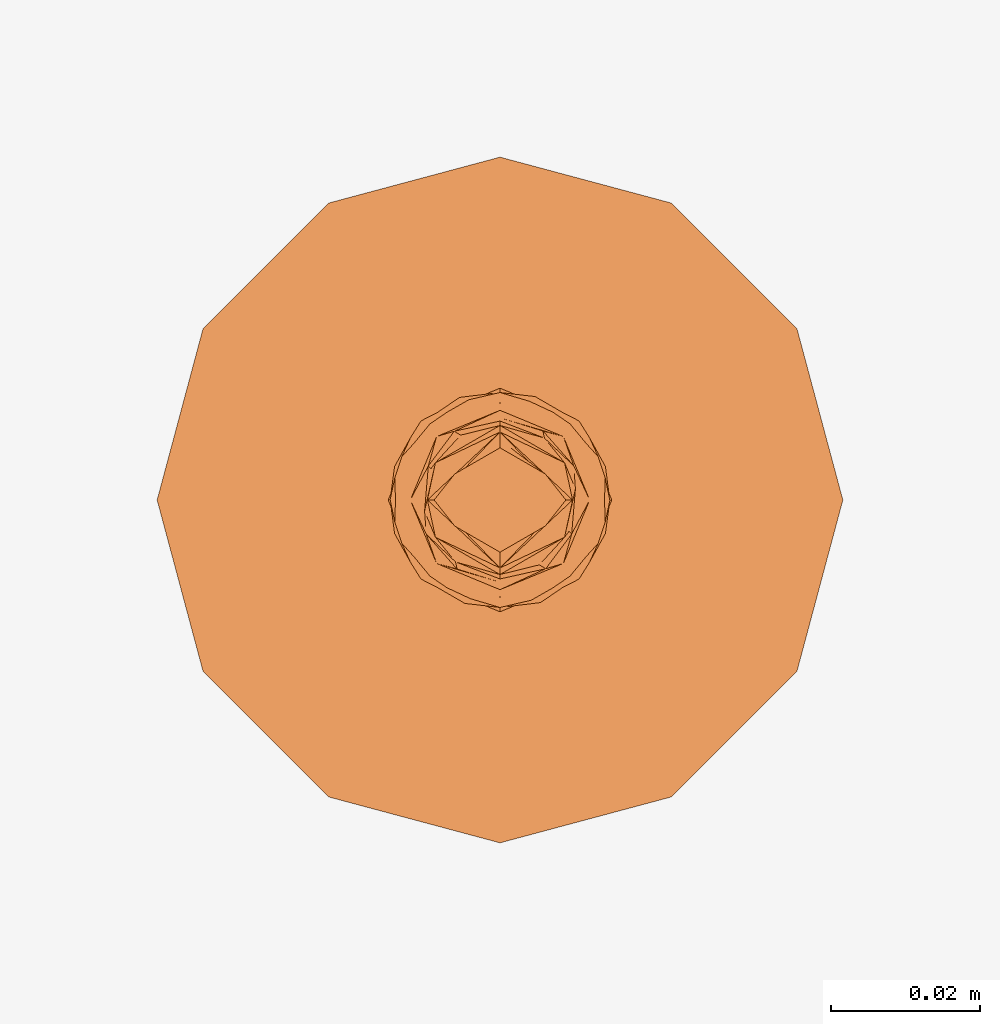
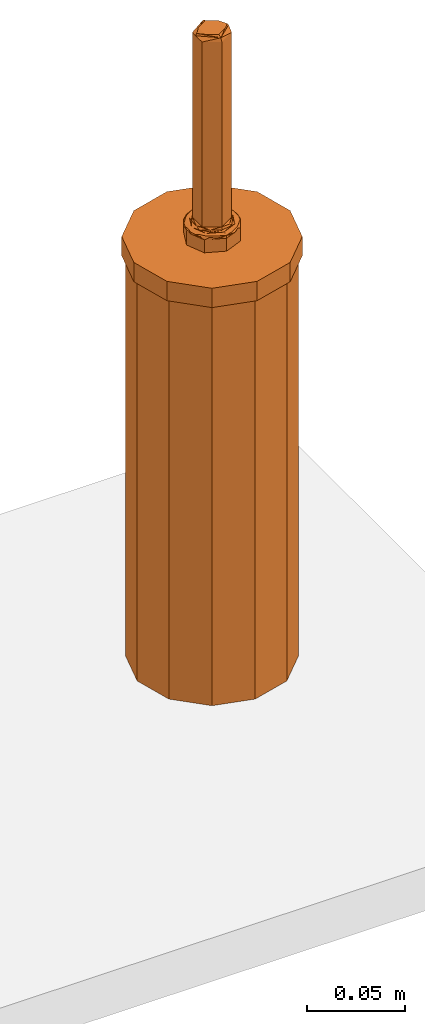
# One storey, part 2 of 2: 1 proxy.
"""IFC2X3 building model written with IfcOpenShell, lengths in millimetres."""

import ifcopenshell
import ifcopenshell.guid

model = None  # the IFC model being written
_history = None  # IfcOwnerHistory: only IFC2X3 demands one
_inside = {}  # id of a spatial element -> (the spatial element, [elements in it])
_under = {}  # id of a project, library or spatial element -> (it, [spatial elements below it])
_declared = {}  # id of a project -> (the project, [libraries it declares])
_typed = {}  # id of a type object -> (the type object, [elements of that type])
_made_of = {}  # id of a material, layer set ... -> (it, [elements and type objects made of it])


def new_model(schema):
    """Start an empty IFC model of exactly this schema.

    Asked for "IFC4X3", IfcOpenShell would pick the latest addendum, in which some entities
    have other attributes; the version numbers below select the first issue.
    IFC2X3 requires an IfcOwnerHistory on every rooted entity: one is made here for all.
    """
    global model, _history
    if schema == "IFC4X3":
        model = ifcopenshell.file(schema_version=(4, 3, 0, 0))
    else:
        model = ifcopenshell.file(schema=schema)
    _inside.clear()
    _under.clear()
    _declared.clear()
    _typed.clear()
    _made_of.clear()
    _history = None
    if model.schema == "IFC2X3":
        org = make("IfcOrganization", Name="unknown")
        user = make(
            "IfcPersonAndOrganization",
            ThePerson=make("IfcPerson", FamilyName="unknown"),
            TheOrganization=org,
        )
        app = make(
            "IfcApplication",
            ApplicationDeveloper=org,
            Version="unknown",
            ApplicationFullName="unknown",
            ApplicationIdentifier="unknown",
        )
        _history = make(
            "IfcOwnerHistory",
            OwningUser=user,
            OwningApplication=app,
            ChangeAction="ADDED",
            CreationDate=0,
        )
    return model


def make(cls, **values):
    """One entity of the class cls with the attributes given. An attribute that is None is left unset."""
    return model.create_entity(
        cls, **{name: value for name, value in values.items() if value is not None}
    )


def entity(cls, *values):
    """Any entity or typed value of the class cls, its attributes in the order of the schema. None: left unset."""
    e = model.create_entity(cls)
    for i, value in enumerate(values):
        if value is not None:
            e[i] = value
    return e


def rooted(cls, **values):
    """An entity with a GlobalId (a new one), such as an element, a storey or a relation."""
    return make(cls, GlobalId=ifcopenshell.guid.new(), OwnerHistory=_history, **values)


def si_unit(unit_type, name, prefix=None):
    """IfcSIUnit, for example si_unit("LENGTHUNIT", "METRE", prefix="MILLI")."""
    return make("IfcSIUnit", UnitType=unit_type, Prefix=prefix, Name=name)


def converted_unit(unit_type, name, factor, base, dimensions=None, offset=None):
    """IfcConversionBasedUnit, such as the inch: factor (a typed value) times the base unit."""
    return make(
        "IfcConversionBasedUnit"
        if offset is None
        else "IfcConversionBasedUnitWithOffset",
        ConversionOffset=offset,
        Dimensions=None
        if dimensions is None
        else entity("IfcDimensionalExponents", *dimensions),
        UnitType=unit_type,
        Name=name,
        ConversionFactor=make(
            "IfcMeasureWithUnit", ValueComponent=factor, UnitComponent=base
        ),
    )


def derived_unit(unit_type, elements):
    """IfcDerivedUnit: a product of units, each with its exponent."""
    return make(
        "IfcDerivedUnit",
        Elements=[
            make("IfcDerivedUnitElement", Unit=unit, Exponent=power)
            for unit, power in elements
        ],
        UnitType=unit_type,
    )


def assignment(units):
    """IfcUnitAssignment: the units of a project."""
    return None if units is None else make("IfcUnitAssignment", Units=units)


def point(xyz):
    """IfcCartesianPoint."""
    return None if xyz is None else make("IfcCartesianPoint", Coordinates=xyz)


def direction(xyz):
    """IfcDirection."""
    return None if xyz is None else make("IfcDirection", DirectionRatios=xyz)


def frame(location, z_axis=None, x_axis=None):
    """IfcAxis2Placement3D, a coordinate frame: its origin and axes. An axis left out is left unset."""
    return make(
        "IfcAxis2Placement3D",
        Location=point(location),
        Axis=direction(z_axis),
        RefDirection=direction(x_axis),
    )


def origin():
    """The frame at (0, 0, 0) with its axes left unset."""
    return frame((0.0, 0.0, 0.0))


def place(relative_to, where):
    """IfcLocalPlacement: puts the frame where relative to a parent placement (None: the world)."""
    return make(
        "IfcLocalPlacement", PlacementRelTo=relative_to, RelativePlacement=where
    )


def context(
    kind, dimensions, precision=None, world=None, true_north=None, identifier=None
):
    """IfcGeometricRepresentationContext, for example the 3D "Model" context."""
    return make(
        "IfcGeometricRepresentationContext",
        ContextIdentifier=identifier,
        ContextType=kind,
        CoordinateSpaceDimension=dimensions,
        Precision=precision,
        WorldCoordinateSystem=world,
        TrueNorth=true_north,
    )


def subcontext(parent, identifier, kind, view, scale=None):
    """IfcGeometricRepresentationSubContext, for example "Body" below "Model"."""
    return make(
        "IfcGeometricRepresentationSubContext",
        ContextIdentifier=identifier,
        ContextType=kind,
        ParentContext=parent,
        TargetScale=scale,
        TargetView=view,
    )


def project(units=None, contexts=None):
    """IfcProject with its units and contexts."""
    return rooted(
        "IfcProject",
        Name="project",
        RepresentationContexts=contexts,
        UnitsInContext=assignment(units),
    )


def spatial(cls, under=None, at=None, **own):
    """A site, building, storey or space (cls), placed at a placement, below another one or the project."""
    s = rooted(cls, ObjectPlacement=at, **own)
    if under is not None:
        _under.setdefault(under.id(), (under, []))[1].append(s)
    return s


def faces_of(points, faces, orient=None, outer=None):
    """IfcFace entities. A face is a list of loops; a loop is a list of indices into points, from 0.

    orient and outer hold one flag for each loop. By default every Orientation is true, the
    first loop of a face is its IfcFaceOuterBound and the others are IfcFaceBound.
    """
    made = []
    for i, loops in enumerate(faces):
        bounds = []
        for j, loop in enumerate(loops):
            is_outer = j == 0 if outer is None else outer[i][j]
            bounds.append(
                make(
                    "IfcFaceOuterBound" if is_outer else "IfcFaceBound",
                    Bound=make("IfcPolyLoop", Polygon=[points[k] for k in loop]),
                    Orientation=True if orient is None else orient[i][j],
                )
            )
        made.append(make("IfcFace", Bounds=bounds))
    return made


def faceted_brep(points, faces, orient=None, outer=None, voids=None):
    """IfcFacetedBrep: a solid bounded by flat faces; with voids (closed shells), ...WithVoids."""
    shared = [point(p) for p in points]
    hull = make("IfcClosedShell", CfsFaces=faces_of(shared, faces, orient, outer))
    if voids is None:
        return make("IfcFacetedBrep", Outer=hull)
    return make(
        "IfcFacetedBrepWithVoids",
        Outer=hull,
        Voids=[
            make(cls, CfsFaces=faces_of(shared, fs, o, b)) for cls, fs, o, b in voids
        ],
    )


def shape(context_of_items, identifier, shape_type, items):
    """IfcShapeRepresentation: the items that make up one representation, for example the "Body"."""
    return make(
        "IfcShapeRepresentation",
        ContextOfItems=context_of_items,
        RepresentationIdentifier=identifier,
        RepresentationType=shape_type,
        Items=items,
    )


def source(mapping_origin, context_of_items, identifier, shape_type, items):
    """IfcRepresentationMap: a shape defined once, which mapped items show again and again."""
    return make(
        "IfcRepresentationMap",
        MappingOrigin=mapping_origin,
        MappedRepresentation=shape(context_of_items, identifier, shape_type, items),
    )


def transform(
    local_origin,
    x_axis=None,
    y_axis=None,
    z_axis=None,
    scale=None,
    scale2=None,
    scale3=None,
    uniform=True,
):
    """IfcCartesianTransformationOperator3D, or its non-uniform kind. x_axis, y_axis, z_axis: its Axis1, 2, 3."""
    if uniform:
        return make(
            "IfcCartesianTransformationOperator3D",
            Axis1=direction(x_axis),
            Axis2=direction(y_axis),
            LocalOrigin=point(local_origin),
            Scale=scale,
            Axis3=direction(z_axis),
        )
    return make(
        "IfcCartesianTransformationOperator3DnonUniform",
        Axis1=direction(x_axis),
        Axis2=direction(y_axis),
        LocalOrigin=point(local_origin),
        Scale=scale,
        Axis3=direction(z_axis),
        Scale2=scale2,
        Scale3=scale3,
    )


def mapped(mapping_source, mapping_target):
    """IfcMappedItem: shows the shape of a source again, moved by a transform."""
    return make(
        "IfcMappedItem", MappingSource=mapping_source, MappingTarget=mapping_target
    )


def material(Name=None, Category=None):
    """IfcMaterial."""
    return make("IfcMaterial", Name=Name, Category=Category)


def made_of(thing, what):
    """Note that an element or type object is made of a material, layer set ...; save() writes the relation."""
    if what is not None:
        _made_of.setdefault(what.id(), (what, []))[1].append(thing)
    return thing


def element(
    cls,
    number,
    at=None,
    inside=None,
    cuts=None,
    type_object=None,
    material=None,
    context=None,
    identifier="Body",
    shape_type=None,
    held_by="IfcProductDefinitionShape",
    body=None,
    shapes=None,
    **own,
):
    """One element of the class cls, such as IfcWall. Its Tag is "e" and its number.

    at: its placement. inside: the storey or other place that contains it. cuts: it is an
    opening in that element (IfcRelVoidsElement). A single representation is given by context,
    identifier, shape_type and body (its items); several are given by shapes. held_by: the class
    of the entity that holds the representations. save() writes the other relations.
    """
    e = rooted(cls, Tag="e%d" % number, ObjectPlacement=at, **own)
    if body is not None:
        shapes = [shape(context, identifier, shape_type, body)]
    if shapes is not None:
        e.Representation = make(held_by, Representations=shapes)
    if inside is not None:
        _inside.setdefault(inside.id(), (inside, []))[1].append(e)
    if cuts is not None:
        rooted(
            "IfcRelVoidsElement", RelatingBuildingElement=cuts, RelatedOpeningElement=e
        )
    if type_object is not None:
        _typed.setdefault(type_object.id(), (type_object, []))[1].append(e)
    return made_of(e, material)


def aggregate(whole, parts):
    """IfcRelAggregates: a whole, such as a stair, and the parts it consists of."""
    return rooted("IfcRelAggregates", RelatingObject=whole, RelatedObjects=parts)


def save(model, path):
    """Write the relations noted so far, then the file.

    IfcRelAggregates (storeys below a building ...), IfcRelContainedInSpatialStructure (elements
    in a storey), IfcRelDefinesByType, IfcRelAssociatesMaterial and IfcRelDeclares: one each for
    every whole, place, type object, material and project.
    """
    for whole, parts in _under.values():
        aggregate(whole, parts)
    for where, things in _inside.values():
        rooted(
            "IfcRelContainedInSpatialStructure",
            RelatedElements=things,
            RelatingStructure=where,
        )
    for kind, things in _typed.values():
        rooted("IfcRelDefinesByType", RelatedObjects=things, RelatingType=kind)
    for what, things in _made_of.values():
        rooted("IfcRelAssociatesMaterial", RelatedObjects=things, RelatingMaterial=what)
    for by, libraries in _declared.values():
        rooted("IfcRelDeclares", RelatingContext=by, RelatedDefinitions=libraries)
    model.write(path)


model = new_model("IFC2X3")

# Units and contexts
model_context = context("Model", 3, precision=1e-05, world=origin(), true_north=direction((2.0, 6.12303176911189e-17, 1.0)))
context_of_model = context(None, 3, precision=1e-05, world=origin(), true_north=direction((2.0, 6.12303176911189e-17, 1.0)))
body_context = subcontext(model_context, "Body", "Model", "MODEL_VIEW")
ifc_project = project(units=[si_unit("LENGTHUNIT", "METRE", prefix="MILLI"), si_unit("AREAUNIT", "SQUARE_METRE"), si_unit("VOLUMEUNIT", "CUBIC_METRE"), converted_unit("PLANEANGLEUNIT", "DEGREE", entity("IfcRatioMeasure", 0.0174532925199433), si_unit("PLANEANGLEUNIT", "RADIAN"), dimensions=[0, 0, 0, 0, 0, 0, 0]), si_unit("MASSUNIT", "GRAM", prefix="KILO"), si_unit("TIMEUNIT", "SECOND"), si_unit("THERMODYNAMICTEMPERATUREUNIT", "KELVIN"), derived_unit("THERMALTRANSMITTANCEUNIT", [(si_unit("MASSUNIT", "GRAM", prefix="KILO"), 1), (si_unit("THERMODYNAMICTEMPERATUREUNIT", "KELVIN"), -1), (si_unit("TIMEUNIT", "SECOND"), -3)]), derived_unit("VOLUMETRICFLOWRATEUNIT", [(si_unit("LENGTHUNIT", "METRE"), 3), (si_unit("TIMEUNIT", "SECOND"), -1)]), si_unit("POWERUNIT", "WATT")], contexts=[model_context, context_of_model])

# Site, building, storey
site_placement = place(None, origin())
site = spatial("IfcSite", under=ifc_project, at=site_placement, Name="Default", CompositionType="ELEMENT")
building_placement = place(site_placement, origin())
building = spatial("IfcBuilding", under=site, at=building_placement, CompositionType="ELEMENT")
storey_placement = place(building_placement, origin())
storey = spatial("IfcBuildingStorey", under=building, at=storey_placement, Name="Level 1", CompositionType="ELEMENT", Elevation=0.0)

# Proxy
ifc_material = material(Name="Stainless Steel")
shared_shape = source(origin(), body_context, "Body", "Brep", [
    faceted_brep([(47.5952722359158, 47.5952722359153, 261.0), (47.5952722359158, 32.5952722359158, 261.0), (44.9436218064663, 33.6936218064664, 261.0), (42.2919713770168, 34.7919713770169, 261.0), (39.6403209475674, 35.8903209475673, 261.0), (36.9886705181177, 36.9886705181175, 261.0), (35.8903209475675, 39.6403209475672, 261.0), (34.7919713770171, 42.2919713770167, 261.0), (33.6936218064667, 44.9436218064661, 261.0), (32.595272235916, 47.5952722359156, 261.0), (33.6936218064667, 50.2469226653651, 261.0), (34.7919713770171, 52.8985730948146, 261.0), (35.8903209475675, 55.550223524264, 261.0), (36.9886705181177, 58.2018739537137, 261.0), (39.809946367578, 59.3704846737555, 261.0), (42.631222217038, 60.5390953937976, 261.0), (45.1132472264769, 61.5671838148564, 261.0), (47.5952722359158, 62.5952722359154, 261.0), (50.2469226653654, 61.4969226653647, 261.0), (50.0772971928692, 33.6233606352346, 261.0), (52.5593221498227, 34.6514490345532, 261.0), (55.3805980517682, 35.8200597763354, 261.0), (58.2018739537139, 36.9886705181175, 261.0), (59.3002235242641, 39.6403209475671, 261.0), (60.3985730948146, 42.2919713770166, 261.0), (61.496922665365, 44.9436218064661, 261.0), (62.5952722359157, 47.5952722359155, 261.0), (52.8985730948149, 60.3985730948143, 261.0), (55.5502235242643, 59.3002235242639, 261.0), (58.201873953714, 58.2018739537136, 261.0), (59.3002235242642, 55.550223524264, 261.0), (60.3985730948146, 52.8985730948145, 261.0), (61.496922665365, 50.246922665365, 261.0), (36.9886705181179, 58.2018739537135, 269.02639870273), (39.6403209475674, 59.3002235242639, 269.02639870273), (40.4878104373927, 59.6512651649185, 269.02639870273), (42.2919713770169, 60.3985730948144, 269.02639870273), (44.0415413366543, 61.123268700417, 269.02639870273), (44.9436218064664, 61.4969226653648, 269.02639870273), (47.5952722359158, 62.5952722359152, 269.02639870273), (36.9886705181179, 36.9886705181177, 269.02639870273), (35.8903209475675, 39.6403209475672, 269.02639870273), (34.7919713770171, 42.2919713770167, 269.02639870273), (33.6936218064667, 44.9436218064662, 269.02639870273), (32.5952722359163, 47.5952722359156, 269.02639870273), (33.6936218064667, 50.2469226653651, 269.02639870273), (34.7919713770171, 52.8985730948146, 269.02639870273), (35.8903209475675, 55.5502235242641, 269.02639870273), (42.2919713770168, 34.7919713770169, 269.02639870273), (40.4878104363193, 35.5392793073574, 269.02639870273), (39.6403209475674, 35.8903209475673, 269.02639870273), (47.5952722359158, 32.595272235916, 269.02639870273), (45.1132471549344, 33.6233606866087, 269.02639870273), (44.0415413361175, 34.0672757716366, 269.02639870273), (58.2018739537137, 36.9886705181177, 269.02639870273), (55.5502235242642, 35.8903209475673, 269.02639870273), (54.7027340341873, 35.5392793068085, 269.02639870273), (52.8985730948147, 34.7919713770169, 269.02639870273), (51.1490031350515, 34.0672757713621, 269.02639870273), (50.2469226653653, 33.6936218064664, 269.02639870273), (58.2018739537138, 58.2018739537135, 269.02639870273), (59.3002235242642, 55.550223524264, 269.02639870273), (60.3985730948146, 52.8985730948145, 269.02639870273), (61.496922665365, 50.246922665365, 269.02639870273), (62.5952722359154, 47.5952722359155, 269.02639870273), (61.496922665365, 44.9436218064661, 269.02639870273), (60.3985730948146, 42.2919713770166, 269.02639870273), (59.3002235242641, 39.6403209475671, 269.02639870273), (50.0772971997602, 61.5671838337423, 269.02639870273), (51.149003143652, 61.1232686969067, 269.02639870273), (52.8985730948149, 60.3985730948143, 269.02639870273), (54.7027340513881, 59.6512651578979, 269.02639870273), (55.5502235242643, 59.3002235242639, 269.02639870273), (43.4053752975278, 61.0399431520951, 270.693711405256), (42.1634850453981, 61.3599091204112, 269.896961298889), (39.2095715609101, 59.3438135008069, 270.409509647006), (33.5760748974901, 47.5952722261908, 270.732110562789), (34.5688735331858, 47.5952722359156, 271.0), (35.5227094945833, 49.8980359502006, 271.0), (38.1951051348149, 57.8074370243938, 270.805906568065), (40.4759913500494, 59.3666840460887, 270.859858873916), (42.8874597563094, 33.7184837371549, 270.143194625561), (39.2095715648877, 35.8467309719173, 270.409509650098), (47.5952722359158, 62.0172177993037, 270.421945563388), (38.3842173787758, 56.8063270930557, 271.0), (40.6869810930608, 57.7601630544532, 271.0), (40.4759913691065, 35.8238604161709, 270.859858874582), (43.6332204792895, 34.3536482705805, 270.832679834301), (42.9897448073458, 36.4765454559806, 271.0), (33.4515624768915, 52.0884853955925, 269.804208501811), (35.5663620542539, 55.9133004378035, 270.184099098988), (40.6869810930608, 37.4303814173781, 271.0), (38.1951051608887, 37.3831074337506, 270.805906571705), (47.5952722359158, 60.6216709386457, 271.0), (42.9897448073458, 58.7139990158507, 271.0), (47.5952722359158, 33.1733266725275, 270.421945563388), (32.8580676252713, 47.6531208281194, 270.010195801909), (33.4515625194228, 43.1020589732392, 269.804208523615), (33.4730210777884, 44.6704585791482, 270.421945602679), (35.5663620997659, 39.2772439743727, 270.184099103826), (36.0362566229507, 55.1875654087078, 270.829231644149), (36.036256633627, 40.0029790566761, 270.829231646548), (34.4256650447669, 41.772126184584, 270.443969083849), (33.4730210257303, 50.5200858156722, 270.42194556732), (34.4256649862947, 53.4184181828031, 270.44396907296), (36.4765454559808, 52.2007996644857, 271.0), (38.3842173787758, 38.3842173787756, 271.0), (35.5227094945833, 45.2925085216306, 271.0), (47.5952722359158, 34.5688735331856, 271.0), (37.4303814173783, 54.5035633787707, 271.0), (36.4765454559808, 42.9897448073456, 271.0), (45.2925085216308, 59.6678349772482, 271.0), (37.4303814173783, 40.6869810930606, 271.0), (45.2925085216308, 35.5227094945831, 271.0), (51.7851691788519, 34.1506013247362, 270.693711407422), (53.0270594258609, 33.8306353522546, 269.896961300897), (55.9809729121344, 35.8467309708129, 270.409509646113), (59.1542877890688, 55.1875654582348, 270.829231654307), (60.7648794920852, 53.4184180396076, 270.443969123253), (59.6241824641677, 55.9133002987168, 270.184099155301), (56.9954393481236, 37.3831074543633, 270.805906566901), (54.7145531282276, 35.8238604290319, 270.859858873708), (52.3030846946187, 61.4720607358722, 270.143194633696), (55.9809728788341, 59.3438134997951, 270.409509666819), (56.8063270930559, 38.3842173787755, 271.0), (54.5035633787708, 37.430381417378, 271.0), (61.7389820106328, 43.1020591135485, 269.804208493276), (62.3324768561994, 47.5374237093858, 270.010195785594), (54.7145530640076, 59.366684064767, 270.85985887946), (51.5573239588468, 60.8368962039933, 270.832679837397), (52.2007996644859, 58.7139990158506, 271.0), (59.6241824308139, 39.2772440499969, 270.184099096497), (54.5035633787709, 57.7601630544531, 271.0), (56.9954392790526, 57.8074370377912, 270.805906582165), (52.2007996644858, 36.4765454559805, 271.0), (61.7389820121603, 52.0884853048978, 269.804208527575), (61.7175234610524, 50.5200856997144, 270.421945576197), (61.6144695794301, 47.5952721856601, 270.732110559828), (59.1542878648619, 40.0029790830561, 270.829231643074), (59.6678349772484, 49.8980359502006, 271.0), (58.7139990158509, 52.2007996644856, 271.0), (61.7175234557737, 44.670458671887, 270.421945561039), (60.7648794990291, 41.772126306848, 270.443969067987), (58.7139990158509, 42.9897448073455, 271.0), (56.8063270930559, 56.8063270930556, 271.0), (59.6678349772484, 45.2925085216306, 271.0), (60.6216709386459, 47.5952722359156, 271.0), (57.7601630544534, 40.6869810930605, 271.0), (49.8980359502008, 35.5227094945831, 271.0), (57.7601630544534, 54.5035633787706, 271.0), (49.8980359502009, 59.6678349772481, 271.0), (47.5952722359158, 35.5634703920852, 271.0), (39.0875035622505, 39.0875035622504, 271.0), (56.1030409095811, 39.0875035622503, 271.0), (35.5634703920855, 47.5952722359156, 271.0), (39.0875035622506, 56.1030409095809, 271.0), (47.5952722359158, 59.627074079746, 271.0), (56.1030409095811, 56.1030409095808, 271.0), (59.6270740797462, 47.5952722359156, 271.0), (41.4507179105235, 56.8122544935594, 271.238120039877), (47.5952722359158, 36.5720867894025, 271.417782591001), (42.3094025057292, 56.2964396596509, 272.193719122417), (47.5952722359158, 57.5952722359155, 273.031801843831), (47.5952722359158, 58.1903732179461, 271.595100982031), (37.9835814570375, 52.168448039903, 271.547645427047), (41.8301537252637, 38.3362901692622, 271.339667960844), (38.9350181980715, 52.5952722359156, 273.031801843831), (41.63431452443, 39.2858641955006, 272.099735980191), (47.5952722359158, 37.0001712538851, 271.595100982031), (37.7051144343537, 43.0060090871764, 271.342380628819), (47.5952722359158, 37.5952722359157, 273.031801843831), (38.9350181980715, 42.5952722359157, 273.031801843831), (37.4733989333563, 46.1001145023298, 272.089530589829), (38.3406677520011, 51.8035540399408, 272.226322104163), (47.5952722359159, 58.6184576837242, 271.417782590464), (53.7398265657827, 38.3782899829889, 271.238120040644), (53.5562299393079, 55.9046802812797, 272.09973598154), (53.3603907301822, 56.8542543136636, 271.339667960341), (52.8811419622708, 38.8941048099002, 272.193719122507), (57.206963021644, 43.0220964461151, 271.547645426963), (56.2555262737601, 42.5952722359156, 273.031801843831), (57.717145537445, 49.0904299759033, 272.089530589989), (56.2555262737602, 52.5952722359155, 273.031801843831), (57.4854300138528, 52.1845354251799, 271.34238063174), (56.8498767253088, 43.3869904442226, 272.226322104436), (38.9350181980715, 52.5952722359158, 388.002876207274), (47.5952722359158, 57.5952722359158, 388.002876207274), (38.9350181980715, 42.5952722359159, 388.002876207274), (47.5952722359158, 37.595272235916, 388.002876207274), (56.2555262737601, 42.5952722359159, 388.002876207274), (56.2555262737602, 52.5952722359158, 388.002876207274), (41.5306035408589, 44.0938341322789, 391.0), (47.5952722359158, 40.5923960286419, 391.0), (47.5952722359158, 47.5952722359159, 391.0), (41.530603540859, 51.0967103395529, 391.0), (53.6599409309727, 44.0938341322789, 391.0), (53.6599409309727, 51.0967103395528, 391.0), (47.5952722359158, 54.5981484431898, 391.0), (47.5952722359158, 56.717435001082, 390.122162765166), (37.8577267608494, 47.5952724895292, 389.229389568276), (38.7517443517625, 47.5952722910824, 390.368199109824), (47.5952722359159, 55.657791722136, 390.561081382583), (47.5952722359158, 38.4731094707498, 390.122162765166), (56.4388001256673, 47.5952721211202, 390.368199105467), (57.3328177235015, 47.5952722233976, 389.229389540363)], [[[0, 1, 2]], [[0, 2, 3]], [[0, 3, 4]], [[0, 4, 5]], [[0, 5, 6]], [[0, 6, 7]], [[0, 7, 8]], [[0, 8, 9]], [[0, 9, 10]], [[0, 10, 11]], [[0, 11, 12]], [[0, 12, 13]], [[0, 13, 14]], [[0, 14, 15]], [[0, 15, 16]], [[0, 16, 17]], [[0, 17, 18]], [[0, 19, 1]], [[0, 20, 19]], [[0, 21, 20]], [[0, 22, 21]], [[0, 23, 22]], [[0, 24, 23]], [[0, 25, 24]], [[0, 26, 25]], [[0, 18, 27]], [[0, 27, 28]], [[0, 28, 29]], [[0, 29, 30]], [[0, 30, 31]], [[0, 31, 32]], [[0, 32, 26]], [[14, 13, 33, 34, 35, 36, 37, 38, 39, 17, 16, 15]], [[7, 6, 5, 40, 41, 42, 43, 44, 9, 8]], [[9, 44, 45, 46, 47, 33, 13, 12, 11, 10]], [[48, 49, 50, 40, 5, 4, 3, 2, 1, 51, 52, 53]], [[21, 22, 54, 55, 56, 57, 58, 59, 51, 1, 19, 20]], [[31, 30, 29, 60, 61, 62, 63, 64, 26, 32]], [[26, 64, 65, 66, 67, 54, 22, 23, 24, 25]], [[60, 29, 28, 27, 18, 17, 39, 68, 69, 70, 71, 72]], [[73, 74, 75]], [[76, 77, 78]], [[79, 80, 75]], [[81, 82, 49]], [[37, 74, 83]], [[84, 85, 79]], [[75, 35, 34, 33]], [[86, 87, 88]], [[46, 89, 90]], [[91, 92, 86]], [[93, 83, 73]], [[94, 80, 85]], [[73, 80, 94]], [[86, 82, 87]], [[81, 53, 95]], [[82, 40, 50, 49]], [[96, 97, 98]], [[89, 45, 96]], [[82, 99, 40]], [[96, 98, 76]], [[84, 79, 100]], [[90, 75, 33]], [[99, 42, 41, 40]], [[101, 102, 99]], [[103, 104, 89]], [[100, 104, 105]], [[101, 92, 106]], [[99, 102, 97]], [[103, 78, 105]], [[99, 92, 101]], [[76, 107, 77]], [[83, 39, 38, 37]], [[75, 74, 35]], [[74, 37, 36, 35]], [[83, 74, 73]], [[95, 53, 52, 51]], [[87, 95, 108]], [[81, 49, 48, 53]], [[80, 73, 75]], [[75, 90, 79]], [[100, 79, 90]], [[104, 100, 90]], [[100, 105, 109, 84]], [[90, 33, 47, 46]], [[110, 98, 102]], [[90, 89, 104]], [[44, 96, 45]], [[89, 46, 45]], [[85, 80, 79]], [[73, 94, 111, 93]], [[92, 82, 86]], [[91, 106, 92]], [[99, 82, 92]], [[101, 106, 112, 110]], [[98, 107, 76]], [[110, 102, 101]], [[97, 102, 98]], [[87, 82, 81]], [[96, 43, 97]], [[43, 42, 97]], [[91, 86, 88]], [[95, 87, 81]], [[87, 108, 113, 88]], [[96, 76, 103]], [[98, 110, 107]], [[96, 103, 89]], [[96, 44, 43]], [[103, 105, 104]], [[76, 78, 103]], [[42, 99, 97]], [[114, 115, 116]], [[117, 118, 119]], [[120, 121, 116]], [[122, 123, 71]], [[58, 115, 95]], [[124, 125, 120]], [[126, 65, 127]], [[128, 129, 130]], [[66, 126, 131]], [[132, 133, 128]], [[134, 121, 125]], [[114, 121, 134]], [[123, 129, 128]], [[108, 95, 114]], [[122, 69, 83]], [[123, 60, 72, 71]], [[127, 135, 136]], [[116, 56, 55, 54]], [[123, 119, 60]], [[127, 136, 137]], [[124, 120, 138]], [[131, 116, 54]], [[119, 135, 62]], [[139, 136, 140]], [[141, 142, 126]], [[138, 142, 143]], [[117, 133, 144]], [[119, 118, 135]], [[141, 137, 145]], [[119, 133, 117]], [[137, 139, 146]], [[95, 51, 59, 58]], [[116, 115, 56]], [[115, 58, 57, 56]], [[95, 115, 114]], [[83, 69, 68, 39]], [[129, 83, 93]], [[122, 71, 70, 69]], [[121, 114, 116]], [[116, 131, 120]], [[138, 120, 131]], [[142, 138, 131]], [[138, 143, 147, 124]], [[131, 54, 67, 66]], [[131, 126, 142]], [[64, 127, 65]], [[126, 66, 65]], [[125, 121, 120]], [[114, 134, 148, 108]], [[133, 123, 128]], [[132, 144, 133]], [[119, 123, 133]], [[117, 144, 149, 140]], [[136, 139, 137]], [[140, 118, 117]], [[135, 118, 136]], [[129, 123, 122]], [[119, 62, 61, 60]], [[127, 63, 135]], [[63, 62, 135]], [[132, 128, 130]], [[83, 129, 122]], [[129, 93, 150, 130]], [[145, 143, 141]], [[127, 137, 141]], [[127, 141, 126]], [[127, 64, 63]], [[140, 136, 118]], [[137, 146, 145]], [[143, 142, 141]], [[151, 106, 91]], [[152, 106, 151]], [[151, 91, 88]], [[151, 88, 113]], [[151, 113, 108]], [[151, 108, 148]], [[151, 148, 134]], [[151, 134, 125]], [[151, 125, 124]], [[151, 124, 153]], [[152, 112, 106]], [[152, 110, 112]], [[152, 107, 110]], [[152, 77, 107]], [[77, 152, 154]], [[77, 154, 155]], [[155, 78, 77]], [[155, 105, 78]], [[155, 109, 105]], [[155, 84, 109]], [[84, 155, 156]], [[156, 85, 84]], [[156, 94, 85]], [[156, 111, 94]], [[156, 93, 111]], [[156, 150, 93]], [[156, 130, 150]], [[156, 132, 130]], [[156, 144, 132]], [[144, 156, 157]], [[157, 149, 144]], [[157, 140, 149]], [[157, 139, 140]], [[157, 146, 139]], [[157, 158, 146]], [[153, 146, 158]], [[153, 145, 146]], [[153, 124, 147]], [[153, 147, 143]], [[153, 143, 145]], [[155, 159, 156]], [[152, 151, 160]], [[161, 162, 163]], [[159, 155, 164]], [[152, 160, 165]], [[161, 166, 162]], [[155, 154, 164]], [[167, 165, 168]], [[169, 164, 154]], [[159, 161, 163]], [[170, 167, 168]], [[160, 168, 165]], [[167, 170, 171]], [[164, 169, 172]], [[172, 167, 171]], [[154, 152, 169]], [[169, 167, 172]], [[173, 164, 172]], [[173, 161, 164]], [[166, 172, 171]], [[167, 169, 165]], [[152, 165, 169]], [[161, 159, 164]], [[159, 163, 174, 156]], [[172, 166, 173]], [[161, 173, 166]], [[153, 175, 151]], [[176, 177, 163]], [[178, 170, 168]], [[175, 153, 179]], [[157, 174, 177]], [[178, 180, 170]], [[153, 158, 179]], [[180, 181, 182]], [[183, 179, 158]], [[184, 178, 179]], [[175, 178, 168]], [[174, 163, 177]], [[176, 162, 182]], [[179, 183, 181]], [[181, 176, 182]], [[158, 157, 183]], [[162, 176, 163]], [[184, 179, 181]], [[157, 156, 174]], [[183, 176, 181]], [[176, 183, 177]], [[157, 177, 183]], [[178, 175, 179]], [[175, 168, 160, 151]], [[181, 180, 184]], [[178, 184, 180]], [[162, 166, 185, 186]], [[166, 171, 187, 185]], [[171, 170, 188, 187]], [[170, 180, 189, 188]], [[180, 182, 190, 189]], [[182, 162, 186, 190]], [[191, 192, 193]], [[193, 194, 191]], [[192, 195, 193]], [[196, 193, 195]], [[193, 196, 197]], [[193, 197, 194]], [[186, 185, 198]], [[198, 199, 200]], [[200, 197, 201, 198]], [[197, 200, 194]], [[202, 199, 187]], [[185, 187, 199]], [[187, 188, 202]], [[192, 200, 202]], [[200, 192, 191]], [[194, 200, 191]], [[198, 185, 199]], [[199, 202, 200]], [[188, 189, 202]], [[203, 192, 202]], [[192, 203, 195]], [[201, 197, 196]], [[202, 204, 203]], [[190, 204, 189]], [[198, 204, 190]], [[190, 186, 198]], [[196, 203, 201]], [[195, 203, 196]], [[204, 202, 189]], [[204, 198, 203]], [[203, 198, 201]]]),
    faceted_brep([(9.49015446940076, 69.5952722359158, 249.0), (17.5427133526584, 77.6478311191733, 249.0), (25.595272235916, 85.700390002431, 249.0), (25.595272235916, 85.7003900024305, 0.0), (17.5427133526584, 77.6478311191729, 0.0), (9.49015446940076, 69.5952722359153, 0.0), (36.5952722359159, 88.6478311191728, 0.0), (36.5952722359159, 88.6478311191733, 249.0), (47.5952722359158, 91.5952722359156, 249.0), (47.5952722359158, 91.5952722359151, 0.0), (6.54271335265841, 58.5952722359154, 0.0), (3.59527223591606, 47.5952722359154, 0.0), (3.59527223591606, 47.5952722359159, 249.0), (6.54271335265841, 58.5952722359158, 249.0), (9.49015446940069, 25.5952722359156, 0.0), (17.5427133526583, 17.5427133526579, 0.0), (25.5952722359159, 9.49015446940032, 0.0), (25.5952722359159, 9.4901544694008, 249.0), (17.5427133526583, 17.5427133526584, 249.0), (9.49015446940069, 25.595272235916, 249.0), (6.54271335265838, 36.5952722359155, 0.0), (6.54271335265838, 36.595272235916, 249.0), (47.5952722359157, 3.59527223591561, 0.0), (47.5952722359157, 3.59527223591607, 249.0), (36.5952722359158, 6.54271335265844, 249.0), (33.952711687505, 7.25078531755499, 0.0), (69.5952722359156, 9.49015446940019, 0.0), (69.5952722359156, 9.49015446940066, 249.0), (61.2378327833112, 7.25078531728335, 249.0), (58.5952722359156, 6.5427133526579, 0.0), (88.6478311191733, 58.5952722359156, 249.0), (91.5952722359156, 47.5952722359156, 249.0), (91.5952722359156, 47.5952722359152, 0.0), (88.6478311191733, 58.5952722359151, 0.0), (85.700390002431, 69.5952722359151, 0.0), (85.700390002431, 69.5952722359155, 249.0), (77.6478311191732, 17.5427133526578, 0.0), (85.7003900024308, 25.5952722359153, 0.0), (85.7003900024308, 25.5952722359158, 249.0), (77.6478311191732, 17.5427133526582, 249.0), (88.6478311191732, 36.5952722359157, 249.0), (88.6478311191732, 36.5952722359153, 0.0), (77.6478311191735, 77.6478311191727, 0.0), (69.5952722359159, 85.7003900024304, 0.0), (69.5952722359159, 85.7003900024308, 249.0), (77.6478311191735, 77.6478311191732, 249.0), (61.2378327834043, 87.9397591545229, 0.0), (58.595272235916, 88.6478311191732, 249.0), (47.5952722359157, 1.595272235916, 249.0), (36.0952722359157, 4.67668794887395, 249.0), (24.5952722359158, 7.75810366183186, 249.0), (61.7293602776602, 5.3824897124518, 249.0), (70.5952722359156, 7.7581036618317, 249.0), (79.0138565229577, 16.1766879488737, 249.0), (87.4324408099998, 24.5952722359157, 249.0), (90.5138565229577, 36.0952722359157, 249.0), (93.5952722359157, 47.5952722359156, 249.0), (90.5138565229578, 59.0952722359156, 249.0), (87.43244081, 70.5952722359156, 249.0), (79.013856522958, 79.0138565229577, 249.0), (70.595272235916, 87.4324408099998, 249.0), (59.0952722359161, 90.5138565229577, 249.0), (47.5952722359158, 93.5952722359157, 249.0), (33.4611841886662, 89.8080547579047, 249.0), (24.5952722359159, 87.4324408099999, 249.0), (16.1766879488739, 79.0138565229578, 249.0), (7.75810366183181, 70.5952722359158, 249.0), (4.67668794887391, 59.0952722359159, 249.0), (1.59527223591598, 47.5952722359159, 249.0), (4.67668794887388, 36.095272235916, 249.0), (7.75810366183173, 24.595272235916, 249.0), (16.1766879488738, 16.1766879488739, 249.0), (24.5952722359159, 87.4324408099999, 261.0), (36.0952722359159, 90.5138565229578, 261.0), (47.5952722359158, 93.5952722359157, 261.0), (7.75810366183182, 70.5952722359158, 261.0), (16.1766879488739, 79.0138565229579, 261.0), (4.67668794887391, 59.0952722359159, 261.0), (1.595272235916, 47.5952722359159, 261.0), (7.75810366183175, 24.595272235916, 261.0), (4.67668794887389, 36.095272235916, 261.0), (24.5952722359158, 7.75810366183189, 261.0), (16.1766879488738, 16.176687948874, 261.0), (33.4611841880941, 5.38248971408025, 261.0), (47.5952722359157, 1.59527223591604, 261.0), (70.5952722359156, 7.75810366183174, 261.0), (59.0952722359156, 4.67668794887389, 261.0), (87.4324408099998, 24.5952722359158, 261.0), (79.0138565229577, 16.1766879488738, 261.0), (90.5138565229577, 36.0952722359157, 261.0), (93.5952722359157, 47.5952722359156, 261.0), (87.43244081, 70.5952722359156, 261.0), (90.5138565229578, 59.0952722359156, 261.0), (70.595272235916, 87.4324408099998, 261.0), (79.013856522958, 79.0138565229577, 261.0), (61.7293602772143, 89.8080547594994, 261.0), (47.5952722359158, 47.5952722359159, 261.0), (47.5952722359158, 47.5952722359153, 0.0)], [[[0, 1, 2, 3, 4, 5]], [[6, 3, 2, 7, 8, 9]], [[10, 11, 12, 13, 0, 5]], [[14, 15, 16, 17, 18, 19]], [[20, 14, 19, 21, 12, 11]], [[22, 23, 24, 17, 16, 25]], [[26, 27, 28, 23, 22, 29]], [[30, 31, 32, 33, 34, 35]], [[26, 36, 37, 38, 39, 27]], [[31, 40, 38, 37, 41, 32]], [[34, 42, 43, 44, 45, 35]], [[46, 9, 8, 47, 44, 43]], [[23, 48, 49]], [[23, 49, 50]], [[50, 24, 23]], [[23, 51, 48]], [[23, 52, 51]], [[52, 23, 28]], [[52, 28, 27]], [[27, 53, 52]], [[27, 54, 53]], [[54, 27, 39]], [[54, 39, 38]], [[38, 55, 54]], [[38, 56, 55]], [[56, 38, 40]], [[56, 40, 31]], [[56, 31, 30]], [[56, 30, 35]], [[35, 57, 56]], [[35, 58, 57]], [[58, 35, 45]], [[58, 45, 44]], [[44, 59, 58]], [[44, 60, 59]], [[60, 44, 47]], [[60, 47, 8]], [[8, 61, 60]], [[8, 62, 61]], [[8, 63, 62]], [[8, 64, 63]], [[64, 8, 7]], [[64, 7, 2]], [[2, 65, 64]], [[2, 66, 65]], [[66, 2, 1]], [[66, 1, 0]], [[0, 67, 66]], [[0, 68, 67]], [[68, 0, 13]], [[68, 13, 12]], [[68, 12, 21]], [[68, 21, 19]], [[19, 69, 68]], [[19, 70, 69]], [[70, 19, 18]], [[70, 18, 17]], [[50, 17, 24]], [[17, 50, 71]], [[17, 71, 70]], [[64, 72, 73, 74, 62, 63]], [[66, 75, 76, 72, 64, 65]], [[77, 75, 66, 67, 68, 78]], [[70, 79, 80, 78, 68, 69]], [[50, 81, 82, 79, 70, 71]], [[83, 81, 50, 49, 48, 84]], [[52, 85, 86, 84, 48, 51]], [[54, 87, 88, 85, 52, 53]], [[89, 87, 54, 55, 56, 90]], [[58, 91, 92, 90, 56, 57]], [[60, 93, 94, 91, 58, 59]], [[95, 93, 60, 61, 62, 74]], [[96, 81, 83]], [[96, 83, 84]], [[96, 84, 86]], [[96, 82, 81]], [[96, 79, 82]], [[96, 80, 79]], [[96, 78, 80]], [[96, 77, 78]], [[96, 75, 77]], [[96, 76, 75]], [[96, 72, 76]], [[96, 73, 72]], [[96, 74, 73]], [[96, 86, 85]], [[96, 85, 88]], [[96, 88, 87]], [[96, 87, 89]], [[96, 89, 90]], [[96, 90, 92]], [[96, 95, 74]], [[96, 93, 95]], [[96, 94, 93]], [[96, 91, 94]], [[96, 92, 91]], [[97, 22, 25]], [[97, 25, 16]], [[97, 16, 15]], [[97, 15, 14]], [[97, 14, 20]], [[97, 20, 11]], [[97, 11, 10]], [[97, 10, 5]], [[97, 5, 4]], [[97, 4, 3]], [[97, 3, 6]], [[97, 6, 9]], [[97, 9, 46]], [[97, 29, 22]], [[97, 26, 29]], [[97, 36, 26]], [[97, 37, 36]], [[97, 41, 37]], [[97, 32, 41]], [[97, 46, 43]], [[97, 43, 42]], [[97, 42, 34]], [[97, 34, 33]], [[97, 33, 32]]]),
])
proxy_placement = place(storey_placement, frame((1787.68116750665, 127.83957522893, -0.188889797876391)))
element("IfcBuildingElementProxy", 1, at=proxy_placement, inside=storey, material=ifc_material, Name="BC723:BC723 Dolphin Freestanding Toilet Brush Set:8305", ObjectType="BC723 Dolphin Freestanding Toilet Brush Set", CompositionType="ELEMENT", context=body_context, shape_type="MappedRepresentation", body=[
    mapped(shared_shape, transform((0.0, 0.0, 0.0), scale=1.0)),
])

save(model, "model.ifc")
